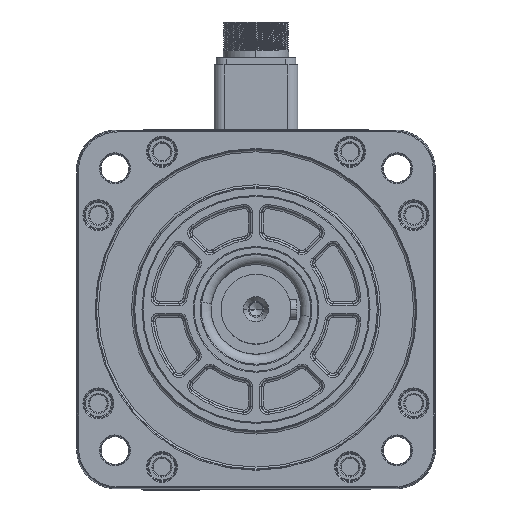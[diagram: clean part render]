
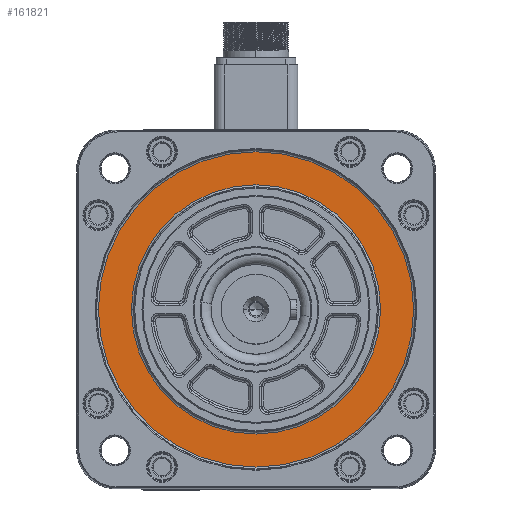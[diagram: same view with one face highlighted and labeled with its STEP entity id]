
A CAD part, top view. The second image highlights one B-rep face of the part: STEP entity #161821.
In plain terms, the highlighted planar face has unit normal (0, 0, 1).
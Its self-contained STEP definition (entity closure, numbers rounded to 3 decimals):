
#6088 = CARTESIAN_POINT ( 'NONE',  ( -79.034, 0., 15. ) ) ;
#15734 = CARTESIAN_POINT ( 'NONE',  ( 62.466, 0., 15. ) ) ;
#16360 = ORIENTED_EDGE ( 'NONE', *, *, #65158, .T. ) ;
#23538 = AXIS2_PLACEMENT_3D ( 'NONE', #94544, #96341, #151927 ) ;
#30029 = VERTEX_POINT ( 'NONE', #163962 ) ;
#32231 = CIRCLE ( 'NONE', #23538, 79.034 ) ;
#32389 = EDGE_LOOP ( 'NONE', ( #76702, #16360 ) ) ;
#36523 = FACE_OUTER_BOUND ( 'NONE', #149191, .T. ) ;
#38288 = CARTESIAN_POINT ( 'NONE',  ( 0., 0., 15. ) ) ;
#44659 = DIRECTION ( 'NONE',  ( 1., 0., 0. ) ) ;
#48182 = AXIS2_PLACEMENT_3D ( 'NONE', #52907, #108524, #163211 ) ;
#52907 = CARTESIAN_POINT ( 'NONE',  ( 0., 0., 15. ) ) ;
#54575 = CIRCLE ( 'NONE', #136045, 62.466 ) ;
#57680 = CARTESIAN_POINT ( 'NONE',  ( -62.466, 0., 15. ) ) ;
#65158 = EDGE_CURVE ( 'NONE', #151333, #123945, #104624, .T. ) ;
#67476 = VERTEX_POINT ( 'NONE', #6088 ) ;
#76702 = ORIENTED_EDGE ( 'NONE', *, *, #76986, .T. ) ;
#76986 = EDGE_CURVE ( 'NONE', #123945, #151333, #54575, .T. ) ;
#80646 = ORIENTED_EDGE ( 'NONE', *, *, #158357, .T. ) ;
#83917 = DIRECTION ( 'NONE',  ( 0., 0., -1. ) ) ;
#93061 = PLANE ( 'NONE',  #48182 ) ;
#94544 = CARTESIAN_POINT ( 'NONE',  ( 0., 0., 15. ) ) ;
#96341 = DIRECTION ( 'NONE',  ( 0., 0., 1. ) ) ;
#97438 = DIRECTION ( 'NONE',  ( 0., 0., 1. ) ) ;
#99719 = CIRCLE ( 'NONE', #158013, 79.034 ) ;
#104624 = CIRCLE ( 'NONE', #154177, 62.466 ) ;
#108524 = DIRECTION ( 'NONE',  ( 0., 0., 1. ) ) ;
#123945 = VERTEX_POINT ( 'NONE', #15734 ) ;
#136045 = AXIS2_PLACEMENT_3D ( 'NONE', #38288, #149494, #177721 ) ;
#136763 = FACE_BOUND ( 'NONE', #32389, .T. ) ;
#147071 = EDGE_CURVE ( 'NONE', #67476, #30029, #32231, .T. ) ;
#149191 = EDGE_LOOP ( 'NONE', ( #80646, #160964 ) ) ;
#149494 = DIRECTION ( 'NONE',  ( 0., 0., -1. ) ) ;
#151333 = VERTEX_POINT ( 'NONE', #57680 ) ;
#151927 = DIRECTION ( 'NONE',  ( 1., 0., 0. ) ) ;
#153042 = DIRECTION ( 'NONE',  ( 1., 0., 0. ) ) ;
#154177 = AXIS2_PLACEMENT_3D ( 'NONE', #167766, #83917, #44659 ) ;
#158013 = AXIS2_PLACEMENT_3D ( 'NONE', #166708, #97438, #153042 ) ;
#158357 = EDGE_CURVE ( 'NONE', #30029, #67476, #99719, .T. ) ;
#160964 = ORIENTED_EDGE ( 'NONE', *, *, #147071, .T. ) ;
#161821 = ADVANCED_FACE ( 'NONE', ( #36523, #136763 ), #93061, .T. ) ;
#163211 = DIRECTION ( 'NONE',  ( 1., 0., 0. ) ) ;
#163962 = CARTESIAN_POINT ( 'NONE',  ( 79.034, 0., 15. ) ) ;
#166708 = CARTESIAN_POINT ( 'NONE',  ( 0., 0., 15. ) ) ;
#167766 = CARTESIAN_POINT ( 'NONE',  ( 0., 0., 15. ) ) ;
#177721 = DIRECTION ( 'NONE',  ( 1., 0., 0. ) ) ;
